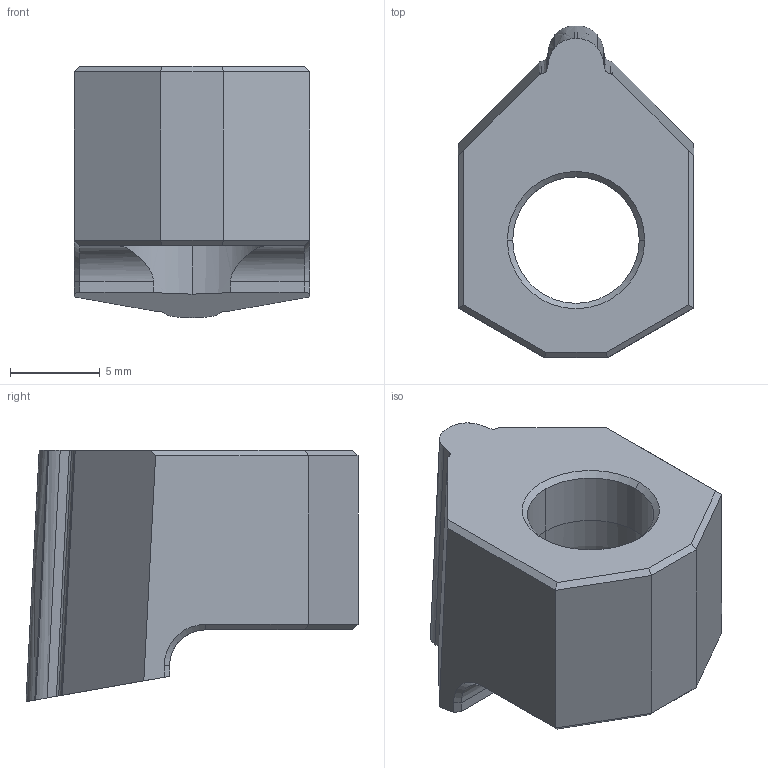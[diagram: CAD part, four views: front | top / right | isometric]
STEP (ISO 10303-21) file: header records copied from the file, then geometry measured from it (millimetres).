
FILE_DESCRIPTION (( 'STEP AP214' ), '1' );
FILE_NAME ('HIN-HTD5-21_46.STEP', '2024-06-08T07:21:50', ( 'Paolo' ), ( '' ), 'SwSTEP 2.0', 'SolidWorks 2020', '' );
FILE_SCHEMA (( 'AUTOMOTIVE_DESIGN' ));
Length unit declared in the file: millimetre
Products named in the file (1): HIN-HTD5-21_46
Bounding box: 13.1 x 18.5 x 14 mm (x, y, z)
Volume: 1540.2 mm3; surface area: 1109.8 mm2
Topology: 1 solids, 1 shells, 51 faces, 136 edges, 86 vertices
Faces by surface type: plane 25, bspline 14, cylinder 6, cone 4, torus 2
Entity records: 1722 total; most frequent: CARTESIAN_POINT 528, ORIENTED_EDGE 272, DIRECTION 196, EDGE_CURVE 136, VERTEX_POINT 86, LINE 84, VECTOR 84, AXIS2_PLACEMENT_3D 56
